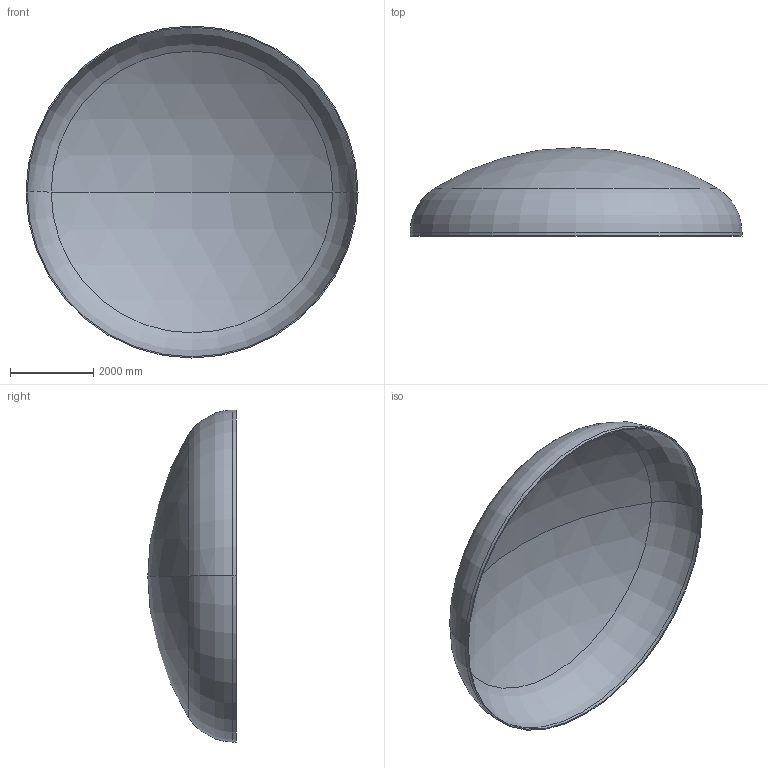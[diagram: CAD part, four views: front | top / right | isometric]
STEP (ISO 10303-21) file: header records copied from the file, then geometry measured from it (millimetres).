
FILE_DESCRIPTION (( 'STEP AP203' ), '1' );
FILE_NAME ('DIN 28013 Korbbogenform_-_Boden DIN 28013 - 8000 x 85 - I - s=28.step', '2016-07-04T11:00:03', ( '' ), ( '' ), 'SwSTEP 2.0', 'SolidWorks 2013', '' );
FILE_SCHEMA (( 'CONFIG_CONTROL_DESIGN' ));
Length unit declared in the file: millimetre
Products named in the file (1): DIN 28013 Korbbogenform_-_Boden DIN 28013 - 8000 x 85 - I - s=28
Bounding box: 8000 x 2130.04 x 8000 mm (x, y, z)
Volume: 1999387637.9 mm3; surface area: 143516240.6 mm2
Topology: 1 solids, 1 shells, 13 faces, 24 edges, 14 vertices
Faces by surface type: torus 4, cylinder 4, sphere 4, plane 1
Entity records: 407 total; most frequent: DIRECTION 72, CARTESIAN_POINT 52, ORIENTED_EDGE 48, AXIS2_PLACEMENT_3D 34, EDGE_CURVE 24, CIRCLE 20, EDGE_LOOP 14, VERTEX_POINT 14
